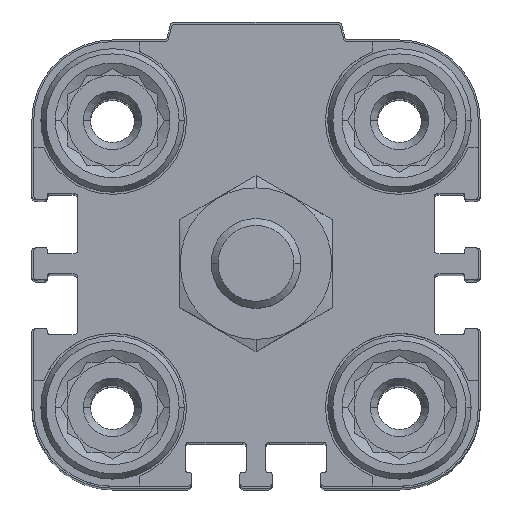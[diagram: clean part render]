
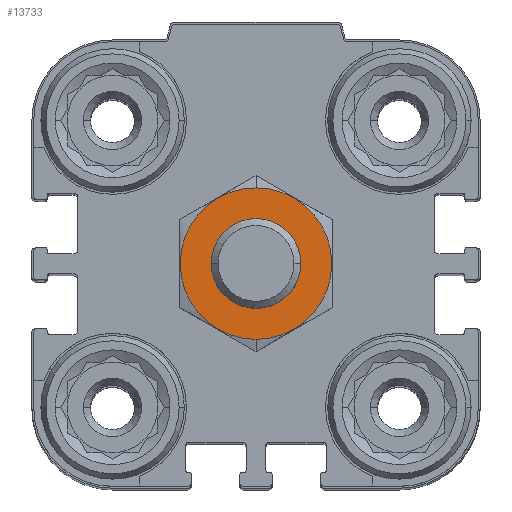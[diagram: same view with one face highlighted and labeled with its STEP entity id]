
A CAD part, top view. The second image highlights one B-rep face of the part: STEP entity #13733.
In plain terms, the highlighted planar face has unit normal (0, 0, 1).
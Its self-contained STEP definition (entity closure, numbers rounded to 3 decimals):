
#134 = CARTESIAN_POINT ( 'NONE',  ( 0., -8.45, 15. ) ) ;
#723 = EDGE_CURVE ( 'NONE', #8316, #6913, #15517, .T. ) ;
#917 = CARTESIAN_POINT ( 'NONE',  ( 0., 0., 15. ) ) ;
#1437 = EDGE_LOOP ( 'NONE', ( #19143, #23979 ) ) ;
#1604 = ORIENTED_EDGE ( 'NONE', *, *, #24079, .T. ) ;
#2182 = FACE_OUTER_BOUND ( 'NONE', #1437, .T. ) ;
#2229 = AXIS2_PLACEMENT_3D ( 'NONE', #917, #18088, #19680 ) ;
#2989 = AXIS2_PLACEMENT_3D ( 'NONE', #9191, #8818, #12958 ) ;
#4110 = PLANE ( 'NONE',  #10759 ) ;
#4532 = DIRECTION ( 'NONE',  ( 0., 0., -1. ) ) ;
#6913 = VERTEX_POINT ( 'NONE', #134 ) ;
#7518 = EDGE_CURVE ( 'NONE', #6913, #8316, #14915, .T. ) ;
#8316 = VERTEX_POINT ( 'NONE', #23750 ) ;
#8818 = DIRECTION ( 'NONE',  ( 0., 0., -1. ) ) ;
#9191 = CARTESIAN_POINT ( 'NONE',  ( 0., 0., 15. ) ) ;
#9293 = CARTESIAN_POINT ( 'NONE',  ( 0., 0., 15. ) ) ;
#9605 = FACE_BOUND ( 'NONE', #20705, .T. ) ;
#10759 = AXIS2_PLACEMENT_3D ( 'NONE', #11559, #17161, #17740 ) ;
#11559 = CARTESIAN_POINT ( 'NONE',  ( 0., 0., 15. ) ) ;
#11561 = CIRCLE ( 'NONE', #2989, 5. ) ;
#12958 = DIRECTION ( 'NONE',  ( 0., -1., 0. ) ) ;
#13733 = ADVANCED_FACE ( 'NONE', ( #2182, #9605 ), #4110, .F. ) ;
#14237 = EDGE_CURVE ( 'NONE', #14342, #20157, #11561, .T. ) ;
#14301 = CARTESIAN_POINT ( 'NONE',  ( 0., -5., 15. ) ) ;
#14342 = VERTEX_POINT ( 'NONE', #14301 ) ;
#14915 = CIRCLE ( 'NONE', #18023, 8.45 ) ;
#15517 = CIRCLE ( 'NONE', #15915, 8.45 ) ;
#15915 = AXIS2_PLACEMENT_3D ( 'NONE', #9293, #21967, #20385 ) ;
#17161 = DIRECTION ( 'NONE',  ( 0., 0., -1. ) ) ;
#17740 = DIRECTION ( 'NONE',  ( 0., -1., 0. ) ) ;
#17767 = CIRCLE ( 'NONE', #2229, 5. ) ;
#18023 = AXIS2_PLACEMENT_3D ( 'NONE', #22840, #4532, #21009 ) ;
#18088 = DIRECTION ( 'NONE',  ( 0., 0., -1. ) ) ;
#19143 = ORIENTED_EDGE ( 'NONE', *, *, #7518, .F. ) ;
#19680 = DIRECTION ( 'NONE',  ( 0., -1., 0. ) ) ;
#20157 = VERTEX_POINT ( 'NONE', #22344 ) ;
#20385 = DIRECTION ( 'NONE',  ( 0., -1., 0. ) ) ;
#20705 = EDGE_LOOP ( 'NONE', ( #1604, #22427 ) ) ;
#21009 = DIRECTION ( 'NONE',  ( 0., -1., 0. ) ) ;
#21967 = DIRECTION ( 'NONE',  ( 0., 0., -1. ) ) ;
#22344 = CARTESIAN_POINT ( 'NONE',  ( 0., 5., 15. ) ) ;
#22427 = ORIENTED_EDGE ( 'NONE', *, *, #14237, .T. ) ;
#22840 = CARTESIAN_POINT ( 'NONE',  ( 0., 0., 15. ) ) ;
#23750 = CARTESIAN_POINT ( 'NONE',  ( 0., 8.45, 15. ) ) ;
#23979 = ORIENTED_EDGE ( 'NONE', *, *, #723, .F. ) ;
#24079 = EDGE_CURVE ( 'NONE', #20157, #14342, #17767, .T. ) ;
